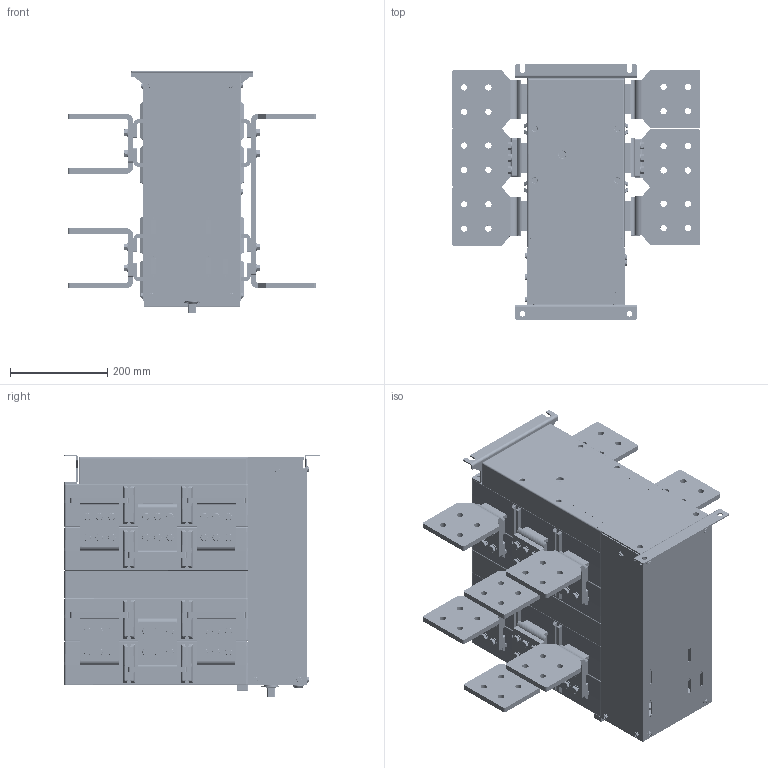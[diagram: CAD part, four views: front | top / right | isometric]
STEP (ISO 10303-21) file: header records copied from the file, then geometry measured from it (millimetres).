
FILE_DESCRIPTION((''),'2;1');
FILE_NAME('NH40-3150-3SZL_2020_11__ASM','2020-12-12T',('zhuanghy'),(''),'PRO/ENGINEER BY PARAMETRIC TECHNOLOGY CORPORATION, 2008380','PRO/ENGINEER BY PARAMETRIC TECHNOLOGY CORPORATION, 2008380','');
FILE_SCHEMA(('CONFIG_CONTROL_DESIGN'));
Length unit declared in the file: millimetre
Products named in the file (28): 3P____-52496_4_1_1; 3P____-51977_2_1_1; 3P____-51963_2_1_1; 3P_________2_1_1; 3P_____2000__2_1_1; 3P____-52041_1_1_1; NH40-2000__3P____2019_5_25______ASM; ANZHUANGJIAO_1_1_1_1_1_1_1_1; SHANGBAN_2_1_1_1_1_1_1_1; HENGLIANG_1_1_1_1_1_1_1_1; CEBAN_3_1_1_1_1_1_1_1; CEBAN2_2_1_1_1_1_1_1_1; DIJIAO_1_1_1_1_1_1_4_1_3; TONGJIANANZHUANG_1_2_1_1_1_2_1_; CEBANLUOSI_1_1_1_1_1_1_1_1; TONGJIANGUDNGLUOSI_1_1_1_1_1_1_; YAOSHI_1_1_1_1_1_1_1_1; HONGZHISHI_1_1_1_1_1_1_2_1_1_1; NH40-2000_3P_2019_5_25__ASM_4_A_ASM; NH40-2500_3P_2019_5_25__ASM_ASM_ASM; 1_3; 2_3; 3_2; 4_4; 5_3; 6_2; NH40-3150-3P_ASM_2_ASM; NH40-3150-3SZL_2020_11__ASM
Assembly tree (138 placements, depth 6):
  NH40-3150-3SZL_2020_11__ASM
    NH40-3150-3P_ASM_2_ASM
      NH40-2500_3P_2019_5_25__ASM_ASM_ASM
        NH40-2000_3P_2019_5_25__ASM_4_A_ASM
          NH40-2000__3P____2019_5_25______ASM
            3P____-52496_4_1_1  x4
            3P____-51977_2_1_1  x2
            3P____-51963_2_1_1
            3P_________2_1_1
            3P_____2000__2_1_1  x2
            3P____-52041_1_1_1
          ANZHUANGJIAO_1_1_1_1_1_1_1_1
          SHANGBAN_2_1_1_1_1_1_1_1
          HENGLIANG_1_1_1_1_1_1_1_1
          CEBAN_3_1_1_1_1_1_1_1
          CEBAN2_2_1_1_1_1_1_1_1
          DIJIAO_1_1_1_1_1_1_4_1_3
          TONGJIANANZHUANG_1_2_1_1_1_2_1_  x24
          CEBANLUOSI_1_1_1_1_1_1_1_1  x10
          TONGJIANGUDNGLUOSI_1_1_1_1_1_1_  x72
          YAOSHI_1_1_1_1_1_1_1_1
          HONGZHISHI_1_1_1_1_1_1_2_1_1_1
      1_3  x2
      2_3
      3_2  x2
      4_4
      5_3  x2
      6_2
Bounding box: 510 x 525.06 x 499.3 mm (x, y, z)
Volume: 38857449.8 mm3; surface area: 4109709.7 mm2
Topology: 134 solids, 150 shells, 8796 faces, 22081 edges, 14254 vertices
Faces by surface type: plane 4389, cylinder 3284, bspline 352, torus 307, extrusion 216, cone 166, sphere 82
Entity records: 96843 total; most frequent: CARTESIAN_POINT 28258, ORIENTED_EDGE 14122, DIRECTION 13967, EDGE_CURVE 7061, AXIS2_PLACEMENT_3D 4774, VERTEX_POINT 4549, VECTOR 4419, LINE 4347
